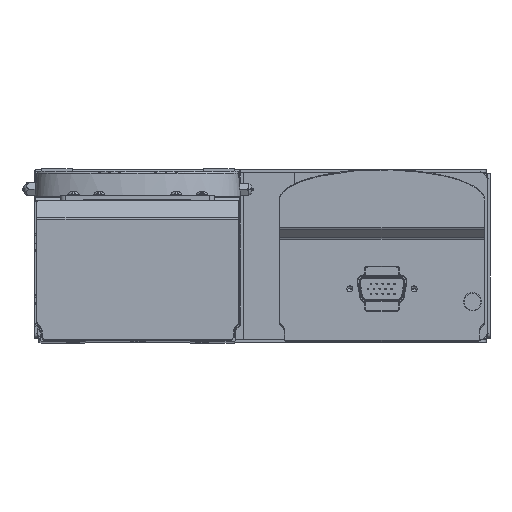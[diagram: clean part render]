
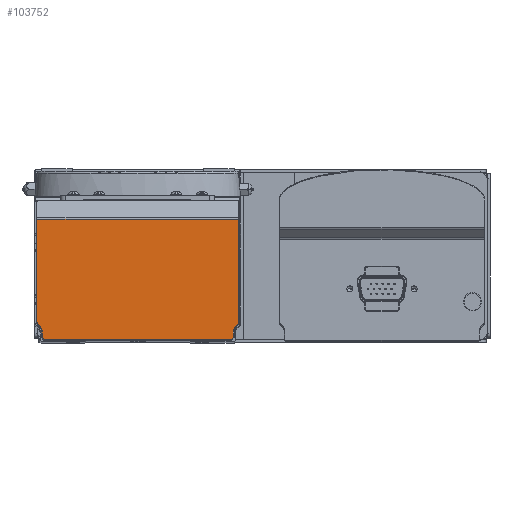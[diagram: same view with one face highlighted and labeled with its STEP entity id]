
A CAD part, top view. The second image highlights one B-rep face of the part: STEP entity #103752.
In plain terms, the highlighted planar face has unit normal (0, 0, 1).
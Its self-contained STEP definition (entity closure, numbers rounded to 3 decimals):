
#327 = DIRECTION ( 'NONE',  ( 0., 0., 1. ) ) ;
#810 = AXIS2_PLACEMENT_3D ( 'NONE', #98765, #327, #44072 ) ;
#1891 = EDGE_CURVE ( 'NONE', #50371, #28406, #22304, .T. ) ;
#2058 = ORIENTED_EDGE ( 'NONE', *, *, #70490, .T. ) ;
#2649 = VECTOR ( 'NONE', #52669, 1000. ) ;
#2880 = AXIS2_PLACEMENT_3D ( 'NONE', #10339, #54177, #98026 ) ;
#3226 = LINE ( 'NONE', #46992, #90071 ) ;
#3358 = CARTESIAN_POINT ( 'NONE',  ( 0., -21.2, 222.245 ) ) ;
#3701 = PLANE ( 'NONE',  #54077 ) ;
#7183 = EDGE_LOOP ( 'NONE', ( #132684, #109657, #2058, #102911, #136151, #106327, #59214, #76442, #72241, #22019, #42140, #137308, #55445, #22375 ) ) ;
#7922 = VERTEX_POINT ( 'NONE', #24355 ) ;
#8863 = CARTESIAN_POINT ( 'NONE',  ( -39.2, 9., 222.245 ) ) ;
#10339 = CARTESIAN_POINT ( 'NONE',  ( 39.5, -17.828, 222.245 ) ) ;
#16189 = CARTESIAN_POINT ( 'NONE',  ( 31.538, -22.538, 222.245 ) ) ;
#16198 = CARTESIAN_POINT ( 'NONE',  ( -36.288, -21.288, 222.245 ) ) ;
#18427 = EDGE_CURVE ( 'NONE', #49477, #114062, #114614, .T. ) ;
#20574 = DIRECTION ( 'NONE',  ( 0., 0., -1. ) ) ;
#22019 = ORIENTED_EDGE ( 'NONE', *, *, #27329, .T. ) ;
#22051 = DIRECTION ( 'NONE',  ( 0., 0., 1. ) ) ;
#22304 = LINE ( 'NONE', #66150, #49381 ) ;
#22375 = ORIENTED_EDGE ( 'NONE', *, *, #52548, .T. ) ;
#22662 = VECTOR ( 'NONE', #60058, 1000. ) ;
#22672 = CARTESIAN_POINT ( 'NONE',  ( -37.2, -20.376, 222.245 ) ) ;
#23039 = VECTOR ( 'NONE', #85798, 1000. ) ;
#23776 = CARTESIAN_POINT ( 'NONE',  ( 37.2, -17.828, 222.245 ) ) ;
#24355 = CARTESIAN_POINT ( 'NONE',  ( 36.376, -21.2, 222.245 ) ) ;
#25501 = DIRECTION ( 'NONE',  ( 0., -1., 0. ) ) ;
#27329 = EDGE_CURVE ( 'NONE', #114062, #7922, #101771, .T. ) ;
#27450 = CARTESIAN_POINT ( 'NONE',  ( -36.376, -21.2, 222.245 ) ) ;
#28406 = VERTEX_POINT ( 'NONE', #77803 ) ;
#35108 = DIRECTION ( 'NONE',  ( 0., 1., 0. ) ) ;
#36677 = CARTESIAN_POINT ( 'NONE',  ( -39.5, 25.586, 222.245 ) ) ;
#37368 = VERTEX_POINT ( 'NONE', #46667 ) ;
#38803 = EDGE_CURVE ( 'NONE', #63632, #102785, #124644, .T. ) ;
#41937 = CARTESIAN_POINT ( 'NONE',  ( 37.288, -20.288, 222.245 ) ) ;
#42140 = ORIENTED_EDGE ( 'NONE', *, *, #80564, .T. ) ;
#44072 = DIRECTION ( 'NONE',  ( -1., 0., 0. ) ) ;
#46667 = CARTESIAN_POINT ( 'NONE',  ( 37.874, -16.202, 222.245 ) ) ;
#46992 = CARTESIAN_POINT ( 'NONE',  ( 37.2, 9., 222.245 ) ) ;
#47134 = DIRECTION ( 'NONE',  ( 1., 0., 0. ) ) ;
#47367 = AXIS2_PLACEMENT_3D ( 'NONE', #118994, #20574, #64403 ) ;
#47463 = CARTESIAN_POINT ( 'NONE',  ( 0., 9., 222.245 ) ) ;
#49381 = VECTOR ( 'NONE', #109937, 1000. ) ;
#49477 = VERTEX_POINT ( 'NONE', #22672 ) ;
#50371 = VERTEX_POINT ( 'NONE', #60389 ) ;
#51526 = VERTEX_POINT ( 'NONE', #100867 ) ;
#52548 = EDGE_CURVE ( 'NONE', #37368, #63632, #114605, .T. ) ;
#52669 = DIRECTION ( 'NONE',  ( 0., -1., 0. ) ) ;
#54077 = AXIS2_PLACEMENT_3D ( 'NONE', #47463, #91369, #135173 ) ;
#54177 = DIRECTION ( 'NONE',  ( 0., 0., -1. ) ) ;
#55445 = ORIENTED_EDGE ( 'NONE', *, *, #113649, .T. ) ;
#58909 = EDGE_CURVE ( 'NONE', #99586, #50371, #127147, .T. ) ;
#59214 = ORIENTED_EDGE ( 'NONE', *, *, #105857, .T. ) ;
#59817 = EDGE_CURVE ( 'NONE', #102785, #51526, #89802, .T. ) ;
#60058 = DIRECTION ( 'NONE',  ( 0.707, 0.707, 0. ) ) ;
#60067 = DIRECTION ( 'NONE',  ( 0.707, -0.707, 0. ) ) ;
#60389 = CARTESIAN_POINT ( 'NONE',  ( -38.702, -15.374, 222.245 ) ) ;
#61019 = VECTOR ( 'NONE', #60067, 1000. ) ;
#63336 = VERTEX_POINT ( 'NONE', #23776 ) ;
#63632 = VERTEX_POINT ( 'NONE', #141630 ) ;
#64403 = DIRECTION ( 'NONE',  ( -1., 0., 0. ) ) ;
#64794 = CIRCLE ( 'NONE', #2880, 2.3 ) ;
#65215 = AXIS2_PLACEMENT_3D ( 'NONE', #120466, #22051, #65898 ) ;
#65898 = DIRECTION ( 'NONE',  ( -1., 0., 0. ) ) ;
#66150 = CARTESIAN_POINT ( 'NONE',  ( -31.538, -22.538, 222.245 ) ) ;
#67341 = VECTOR ( 'NONE', #80544, 1000. ) ;
#68569 = VERTEX_POINT ( 'NONE', #101789 ) ;
#70490 = EDGE_CURVE ( 'NONE', #51526, #68569, #135227, .T. ) ;
#72241 = ORIENTED_EDGE ( 'NONE', *, *, #18427, .T. ) ;
#75911 = VERTEX_POINT ( 'NONE', #111660 ) ;
#76442 = ORIENTED_EDGE ( 'NONE', *, *, #80217, .T. ) ;
#76766 = VECTOR ( 'NONE', #35108, 1000. ) ;
#77803 = CARTESIAN_POINT ( 'NONE',  ( -37.874, -16.202, 222.245 ) ) ;
#80114 = LINE ( 'NONE', #123930, #130871 ) ;
#80217 = EDGE_CURVE ( 'NONE', #96886, #49477, #80114, .T. ) ;
#80544 = DIRECTION ( 'NONE',  ( -1., 0., 0. ) ) ;
#80564 = EDGE_CURVE ( 'NONE', #7922, #75911, #140488, .T. ) ;
#82434 = CARTESIAN_POINT ( 'NONE',  ( -39.2, -14.172, 222.245 ) ) ;
#85798 = DIRECTION ( 'NONE',  ( 0.707, 0.707, 0. ) ) ;
#88655 = CARTESIAN_POINT ( 'NONE',  ( 39.2, -14.172, 222.245 ) ) ;
#89802 = LINE ( 'NONE', #133626, #76766 ) ;
#90071 = VECTOR ( 'NONE', #90909, 1000. ) ;
#90909 = DIRECTION ( 'NONE',  ( 0., 1., 0. ) ) ;
#91369 = DIRECTION ( 'NONE',  ( 0., 0., -1. ) ) ;
#96886 = VERTEX_POINT ( 'NONE', #121478 ) ;
#98026 = DIRECTION ( 'NONE',  ( -1., 0., 0. ) ) ;
#98765 = CARTESIAN_POINT ( 'NONE',  ( 37.5, -14.172, 222.245 ) ) ;
#99586 = VERTEX_POINT ( 'NONE', #82434 ) ;
#100867 = CARTESIAN_POINT ( 'NONE',  ( 39.2, 25.586, 222.245 ) ) ;
#101771 = LINE ( 'NONE', #3358, #141077 ) ;
#101789 = CARTESIAN_POINT ( 'NONE',  ( -39.2, 25.586, 222.245 ) ) ;
#102101 = FACE_OUTER_BOUND ( 'NONE', #7183, .T. ) ;
#102785 = VERTEX_POINT ( 'NONE', #88655 ) ;
#102911 = ORIENTED_EDGE ( 'NONE', *, *, #115056, .T. ) ;
#103752 = ADVANCED_FACE ( 'NONE', ( #102101 ), #3701, .F. ) ;
#105857 = EDGE_CURVE ( 'NONE', #28406, #96886, #109311, .T. ) ;
#106327 = ORIENTED_EDGE ( 'NONE', *, *, #1891, .T. ) ;
#107252 = LINE ( 'NONE', #8863, #2649 ) ;
#109311 = CIRCLE ( 'NONE', #47367, 2.3 ) ;
#109657 = ORIENTED_EDGE ( 'NONE', *, *, #59817, .T. ) ;
#109937 = DIRECTION ( 'NONE',  ( 0.707, -0.707, 0. ) ) ;
#111660 = CARTESIAN_POINT ( 'NONE',  ( 37.2, -20.376, 222.245 ) ) ;
#113649 = EDGE_CURVE ( 'NONE', #63336, #37368, #64794, .T. ) ;
#114062 = VERTEX_POINT ( 'NONE', #27450 ) ;
#114605 = LINE ( 'NONE', #16189, #22662 ) ;
#114614 = LINE ( 'NONE', #16198, #61019 ) ;
#115056 = EDGE_CURVE ( 'NONE', #68569, #99586, #107252, .T. ) ;
#118994 = CARTESIAN_POINT ( 'NONE',  ( -39.5, -17.828, 222.245 ) ) ;
#120466 = CARTESIAN_POINT ( 'NONE',  ( -37.5, -14.172, 222.245 ) ) ;
#121478 = CARTESIAN_POINT ( 'NONE',  ( -37.2, -17.828, 222.245 ) ) ;
#123930 = CARTESIAN_POINT ( 'NONE',  ( -37.2, 9., 222.245 ) ) ;
#124644 = CIRCLE ( 'NONE', #810, 1.7 ) ;
#127147 = CIRCLE ( 'NONE', #65215, 1.7 ) ;
#130871 = VECTOR ( 'NONE', #25501, 1000. ) ;
#132667 = EDGE_CURVE ( 'NONE', #75911, #63336, #3226, .T. ) ;
#132684 = ORIENTED_EDGE ( 'NONE', *, *, #38803, .T. ) ;
#133626 = CARTESIAN_POINT ( 'NONE',  ( 39.2, 9., 222.245 ) ) ;
#135173 = DIRECTION ( 'NONE',  ( -1., 0., 0. ) ) ;
#135227 = LINE ( 'NONE', #36677, #67341 ) ;
#136151 = ORIENTED_EDGE ( 'NONE', *, *, #58909, .T. ) ;
#137308 = ORIENTED_EDGE ( 'NONE', *, *, #132667, .T. ) ;
#140488 = LINE ( 'NONE', #41937, #23039 ) ;
#141077 = VECTOR ( 'NONE', #47134, 1000. ) ;
#141630 = CARTESIAN_POINT ( 'NONE',  ( 38.702, -15.374, 222.245 ) ) ;
